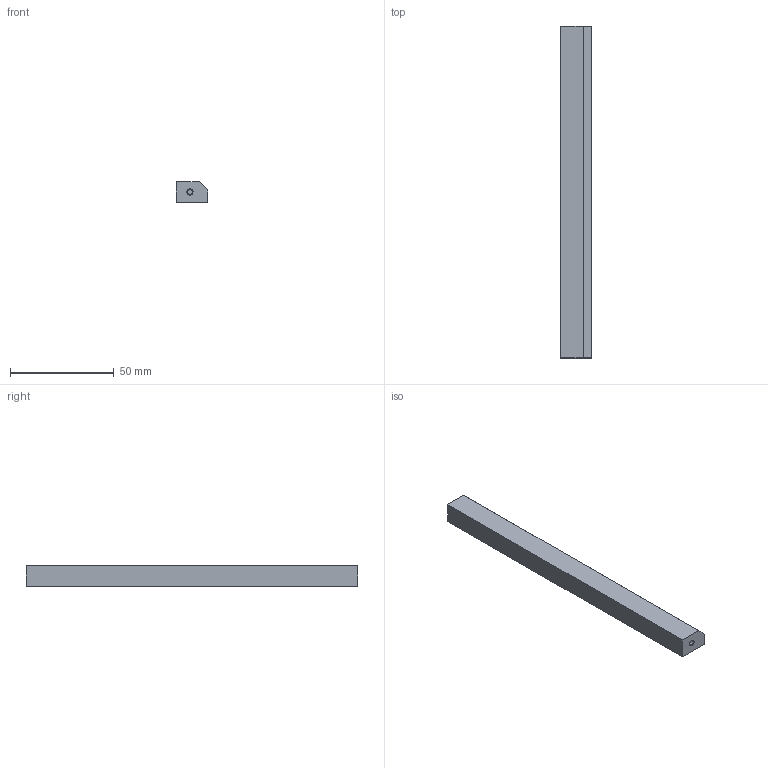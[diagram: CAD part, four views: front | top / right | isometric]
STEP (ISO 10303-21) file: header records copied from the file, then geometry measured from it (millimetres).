
FILE_DESCRIPTION(/* description */ ('VariCAD 2010-1.04 AP-203'),/* implementation_level */ '2;1');
FILE_NAME(/* name */ '0353-18-18',/* time_stamp */ '2010-01-26T11:35:24-07:00',/* author */ (''),/* organization */ (''),/* preprocessor_version */ 'ST-DEVELOPER v12',/* originating_system */ 'VariCAD 2010-1.04; kernel version (20090520)',/* authorisation */ '');
FILE_SCHEMA (('CONFIG_CONTROL_DESIGN'));
Length unit declared in the file: millimetre
Products named in the file (1): Part
Bounding box: 15 x 160 x 10 mm (x, y, z)
Volume: 22008.4 mm3; surface area: 9396.2 mm2
Topology: 5 solids, 5 shells, 63 faces, 127 edges, 78 vertices
Faces by surface type: cylinder 32, plane 19, cone 12
Entity records: 1727 total; most frequent: DIRECTION 333, CARTESIAN_POINT 274, ORIENTED_EDGE 254, AXIS2_PLACEMENT_3D 137, EDGE_CURVE 127, VERTEX_POINT 78, EDGE_LOOP 75, CIRCLE 68
